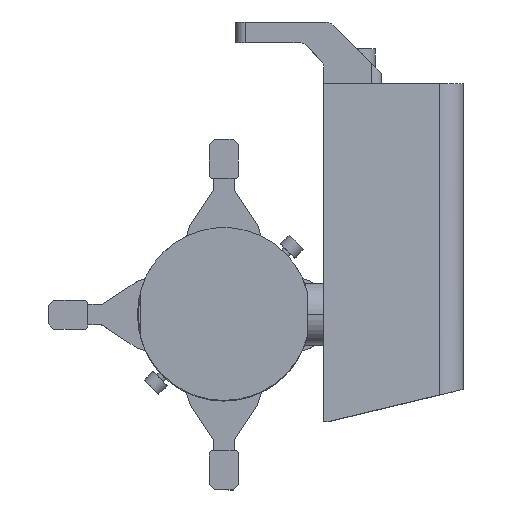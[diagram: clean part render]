
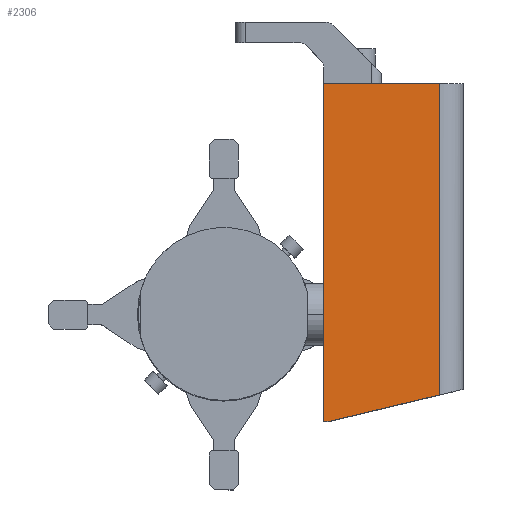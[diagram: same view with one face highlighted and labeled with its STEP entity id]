
A CAD part, top view. The second image highlights one B-rep face of the part: STEP entity #2306.
In plain terms, the highlighted planar face has unit normal (0.037, 0, 0.999).
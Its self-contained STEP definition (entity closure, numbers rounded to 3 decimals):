
#239 = CARTESIAN_POINT ( 'NONE',  ( 9.3, 112., 37.945 ) ) ;
#924 = DIRECTION ( 'NONE',  ( 0., -1., 0. ) ) ;
#941 = VECTOR ( 'NONE', #1260, 1000. ) ;
#1011 = VERTEX_POINT ( 'NONE', #2972 ) ;
#1021 = CARTESIAN_POINT ( 'NONE',  ( 9.3, 112., 37.945 ) ) ;
#1260 = DIRECTION ( 'NONE',  ( -0.999, 0., 0.037 ) ) ;
#1545 = CARTESIAN_POINT ( 'NONE',  ( 65.542, -101.8, 35.871 ) ) ;
#1716 = EDGE_LOOP ( 'NONE', ( #3484, #7907, #5323, #6474, #4304 ) ) ;
#2226 = DIRECTION ( 'NONE',  ( 0., 1., 0. ) ) ;
#2306 = ADVANCED_FACE ( 'NONE', ( #4979 ), #3660, .F. ) ;
#2852 = VECTOR ( 'NONE', #4355, 1000. ) ;
#2972 = CARTESIAN_POINT ( 'NONE',  ( 11.8, -52., 37.853 ) ) ;
#3322 = LINE ( 'NONE', #7630, #4501 ) ;
#3484 = ORIENTED_EDGE ( 'NONE', *, *, #8175, .F. ) ;
#3575 = CARTESIAN_POINT ( 'NONE',  ( 9.3, -101.8, 37.945 ) ) ;
#3660 = PLANE ( 'NONE',  #5546 ) ;
#3983 = VECTOR ( 'NONE', #2226, 1000. ) ;
#4030 = CARTESIAN_POINT ( 'NONE',  ( 77.008, -52., 35.448 ) ) ;
#4062 = EDGE_CURVE ( 'NONE', #7601, #8345, #4197, .T. ) ;
#4134 = EDGE_CURVE ( 'NONE', #8345, #5869, #5700, .T. ) ;
#4197 = LINE ( 'NONE', #1545, #3983 ) ;
#4304 = ORIENTED_EDGE ( 'NONE', *, *, #8020, .F. ) ;
#4355 = DIRECTION ( 'NONE',  ( -0.972, -0.232, 0.036 ) ) ;
#4501 = VECTOR ( 'NONE', #924, 1000. ) ;
#4825 = CARTESIAN_POINT ( 'NONE',  ( 65.542, -39.161, 35.871 ) ) ;
#4979 = FACE_OUTER_BOUND ( 'NONE', #1716, .T. ) ;
#5054 = DIRECTION ( 'NONE',  ( -0.999, 0., 0.037 ) ) ;
#5055 = VECTOR ( 'NONE', #5054, 1000. ) ;
#5280 = EDGE_CURVE ( 'NONE', #5869, #6032, #3322, .T. ) ;
#5323 = ORIENTED_EDGE ( 'NONE', *, *, #4134, .T. ) ;
#5546 = AXIS2_PLACEMENT_3D ( 'NONE', #3575, #7725, #6344 ) ;
#5700 = LINE ( 'NONE', #239, #5055 ) ;
#5737 = LINE ( 'NONE', #4030, #941 ) ;
#5869 = VERTEX_POINT ( 'NONE', #1021 ) ;
#6032 = VERTEX_POINT ( 'NONE', #7814 ) ;
#6344 = DIRECTION ( 'NONE',  ( -0.999, 0., 0.037 ) ) ;
#6474 = ORIENTED_EDGE ( 'NONE', *, *, #5280, .T. ) ;
#6697 = LINE ( 'NONE', #7578, #2852 ) ;
#7578 = CARTESIAN_POINT ( 'NONE',  ( 15.954, -51.008, 37.7 ) ) ;
#7601 = VERTEX_POINT ( 'NONE', #4825 ) ;
#7630 = CARTESIAN_POINT ( 'NONE',  ( 9.3, -52., 37.945 ) ) ;
#7725 = DIRECTION ( 'NONE',  ( -0.037, 0., -0.999 ) ) ;
#7814 = CARTESIAN_POINT ( 'NONE',  ( 9.3, -52., 37.945 ) ) ;
#7907 = ORIENTED_EDGE ( 'NONE', *, *, #4062, .T. ) ;
#8020 = EDGE_CURVE ( 'NONE', #1011, #6032, #5737, .T. ) ;
#8175 = EDGE_CURVE ( 'NONE', #7601, #1011, #6697, .T. ) ;
#8345 = VERTEX_POINT ( 'NONE', #8610 ) ;
#8610 = CARTESIAN_POINT ( 'NONE',  ( 65.542, 112., 35.871 ) ) ;
